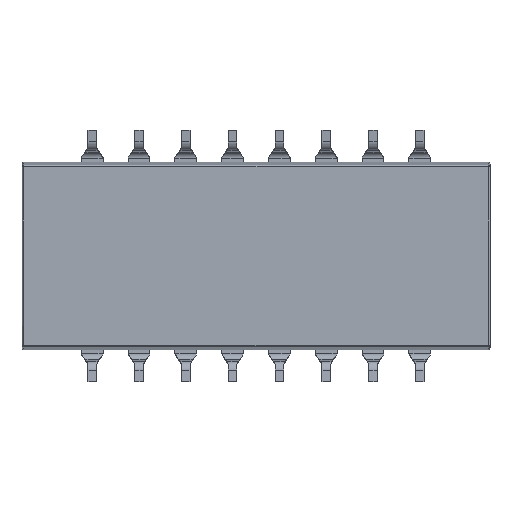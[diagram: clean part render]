
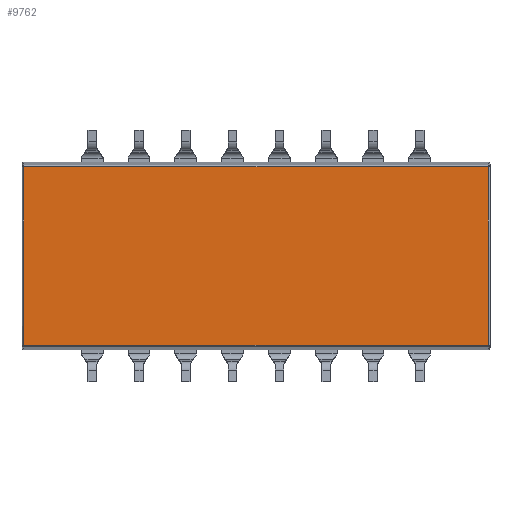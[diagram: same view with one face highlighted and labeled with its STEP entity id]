
A CAD part, front view. The second image highlights one B-rep face of the part: STEP entity #9762.
In plain terms, the highlighted planar face has unit normal (0, -1, 0).
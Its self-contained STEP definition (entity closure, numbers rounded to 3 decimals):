
#16 = VECTOR ( 'NONE', #22, 1000. ) ;
#22 = DIRECTION ( 'NONE',  ( 0., 0., -1. ) ) ;
#594 = CARTESIAN_POINT ( 'NONE',  ( 12.6, -2.865, 4.834 ) ) ;
#792 = VECTOR ( 'NONE', #4664, 1000. ) ;
#1180 = FACE_OUTER_BOUND ( 'NONE', #4342, .T. ) ;
#1353 = DIRECTION ( 'NONE',  ( 0., 1., 0. ) ) ;
#1568 = EDGE_CURVE ( 'NONE', #1840, #9530, #7213, .T. ) ;
#1840 = VERTEX_POINT ( 'NONE', #3711 ) ;
#2677 = VERTEX_POINT ( 'NONE', #5815 ) ;
#3249 = AXIS2_PLACEMENT_3D ( 'NONE', #8829, #1353, #7196 ) ;
#3318 = CARTESIAN_POINT ( 'NONE',  ( 12.7, -2.865, -4.839 ) ) ;
#3333 = CARTESIAN_POINT ( 'NONE',  ( 12.6, -2.865, 4.834 ) ) ;
#3409 = CARTESIAN_POINT ( 'NONE',  ( -12.6, -2.865, 0. ) ) ;
#3426 = VECTOR ( 'NONE', #6519, 1000. ) ;
#3584 = ORIENTED_EDGE ( 'NONE', *, *, #7400, .T. ) ;
#3688 = EDGE_CURVE ( 'NONE', #9530, #9853, #9807, .T. ) ;
#3689 = VECTOR ( 'NONE', #8348, 1000. ) ;
#3711 = CARTESIAN_POINT ( 'NONE',  ( 12.6, -2.865, -4.839 ) ) ;
#3970 = ORIENTED_EDGE ( 'NONE', *, *, #8570, .F. ) ;
#4342 = EDGE_LOOP ( 'NONE', ( #3970, #9841, #5874, #3584 ) ) ;
#4664 = DIRECTION ( 'NONE',  ( 0., 0., 1. ) ) ;
#5686 = CARTESIAN_POINT ( 'NONE',  ( 12.7, -2.865, 4.834 ) ) ;
#5815 = CARTESIAN_POINT ( 'NONE',  ( -12.6, -2.865, -4.839 ) ) ;
#5874 = ORIENTED_EDGE ( 'NONE', *, *, #3688, .T. ) ;
#6331 = PLANE ( 'NONE',  #3249 ) ;
#6519 = DIRECTION ( 'NONE',  ( -1., 0., 0. ) ) ;
#7196 = DIRECTION ( 'NONE',  ( 0., 0., 1. ) ) ;
#7213 = LINE ( 'NONE', #594, #792 ) ;
#7382 = CARTESIAN_POINT ( 'NONE',  ( -12.6, -2.865, 4.834 ) ) ;
#7400 = EDGE_CURVE ( 'NONE', #9853, #2677, #8379, .T. ) ;
#8114 = LINE ( 'NONE', #3318, #3689 ) ;
#8348 = DIRECTION ( 'NONE',  ( -1., 0., 0. ) ) ;
#8379 = LINE ( 'NONE', #3409, #16 ) ;
#8570 = EDGE_CURVE ( 'NONE', #1840, #2677, #8114, .T. ) ;
#8829 = CARTESIAN_POINT ( 'NONE',  ( 12.7, -2.865, 0. ) ) ;
#9530 = VERTEX_POINT ( 'NONE', #3333 ) ;
#9762 = ADVANCED_FACE ( 'NONE', ( #1180 ), #6331, .F. ) ;
#9807 = LINE ( 'NONE', #5686, #3426 ) ;
#9841 = ORIENTED_EDGE ( 'NONE', *, *, #1568, .T. ) ;
#9853 = VERTEX_POINT ( 'NONE', #7382 ) ;
